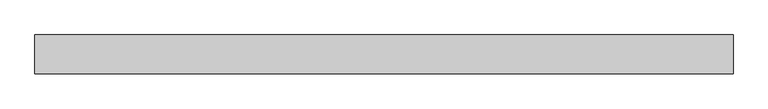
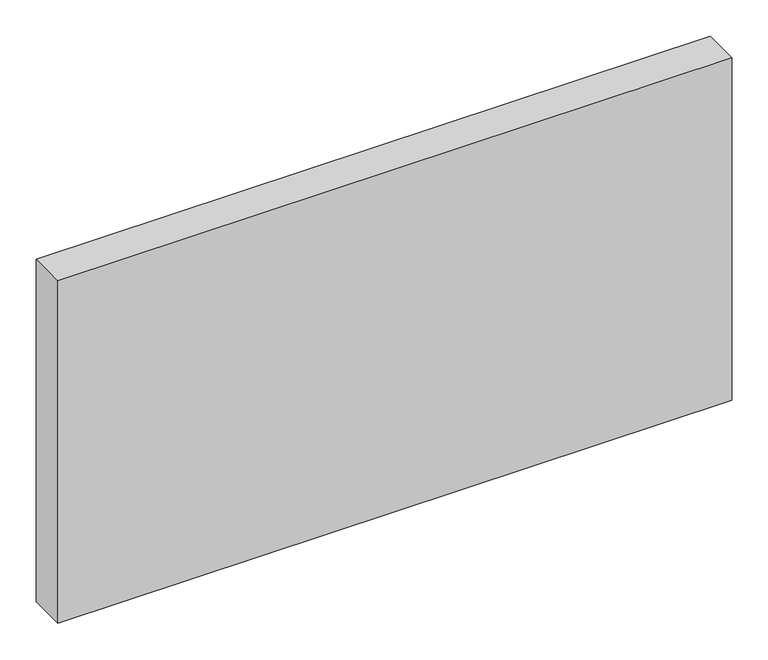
"""IFC4 building model written with IfcOpenShell, lengths in millimetres: plate geometry, Системная панель : Алюкобонд серый."""

from ifc_helpers import new_model, si_unit, origin, origin_with_axes, place, context, project, spatial, polyline, outline, extrude, source, transform, mapped, element, save


def plate_b2956134(model_context):
    return source(origin(), model_context, "Body", "SweptSolid", [
        extrude(outline(polyline([(539.7604728, -49.5), (-539.7604728, -49.5), (-539.7604728, 10.5), (539.7604728, 10.5), (539.7604728, -49.5)])), origin_with_axes(), (0.0, 0.0, 1.0), 580.0),
    ])


if __name__ == "__main__":
    model = new_model("IFC4")
    model_context = context("Model", 3, world=origin())
    ifc_project = project(units=[si_unit("LENGTHUNIT", "METRE", prefix="MILLI")], contexts=[model_context])
    site = spatial("IfcSite", under=ifc_project)
    building = spatial("IfcBuilding", under=site)
    placement = place(None, origin())
    plate_shape = plate_b2956134(model_context)
    element("IfcPlate", 1, ObjectType="Системная панель : Алюкобонд серый", at=placement, inside=building, context=model_context, shape_type="MappedRepresentation", body=[
        mapped(plate_shape, transform((0.0, 0.0, 0.0), x_axis=(1.0, 0.0, 0.0), y_axis=(0.0, 1.0, 0.0), z_axis=(0.0, 0.0, 1.0))),
    ])
    save(model, "model.ifc")
